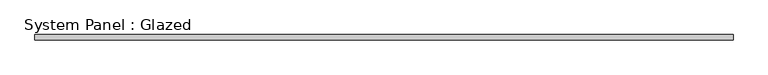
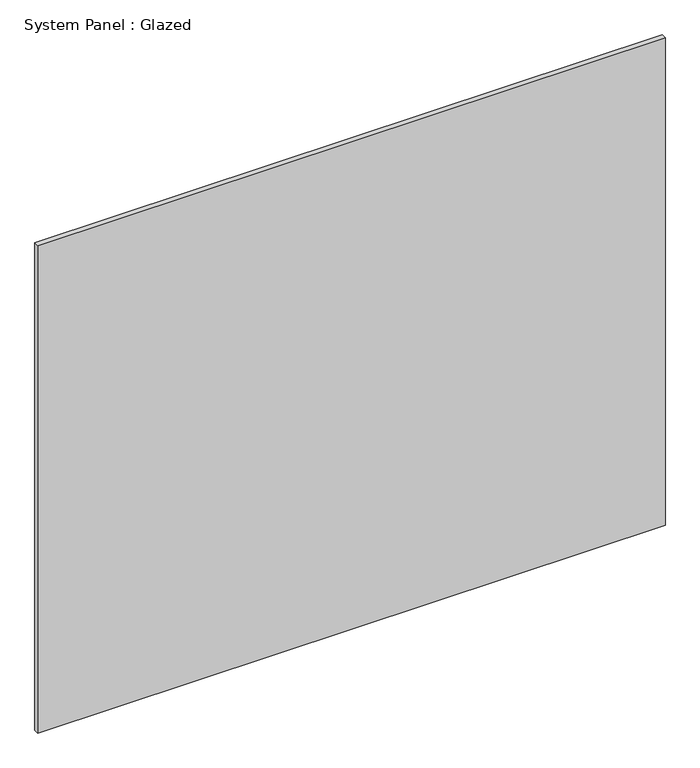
"""IFC4 building model written with IfcOpenShell, lengths in millimetres: plate geometry, System Panel : Glazed."""

from ifc_helpers import new_model, si_unit, origin, origin_with_axes, place, context, project, spatial, polyline, outline, extrude, source, transform, mapped, element, save


def system_panel_glazed_c57c7bc0(model_context):
    return source(origin(), model_context, "Body", "SweptSolid", [
        extrude(outline(polyline([(1675.0, 24.5), (-1675.0, 24.5), (-1675.0, 49.5), (1675.0, 49.5), (1675.0, 24.5)])), origin_with_axes(), (0.0, 0.0, 1.0), 2750.0),
    ])


if __name__ == "__main__":
    model = new_model("IFC4")
    model_context = context("Model", 3, world=origin())
    ifc_project = project(units=[si_unit("LENGTHUNIT", "METRE", prefix="MILLI")], contexts=[model_context])
    site = spatial("IfcSite", under=ifc_project)
    building = spatial("IfcBuilding", under=site)
    placement = place(None, origin())
    system_panel_glazed_shape = system_panel_glazed_c57c7bc0(model_context)
    element("IfcPlate", 1, ObjectType="System Panel : Glazed", at=placement, inside=building, context=model_context, shape_type="MappedRepresentation", body=[
        mapped(system_panel_glazed_shape, transform((0.0, 0.0, 0.0), x_axis=(1.0, 0.0, 0.0), y_axis=(0.0, 1.0, 0.0), z_axis=(0.0, 0.0, 1.0))),
    ])
    save(model, "model.ifc")
